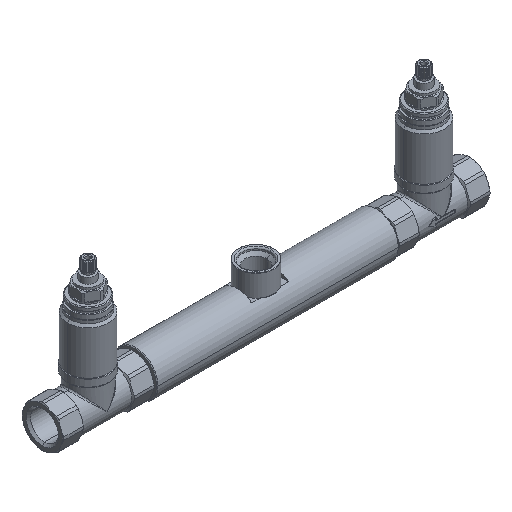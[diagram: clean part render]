
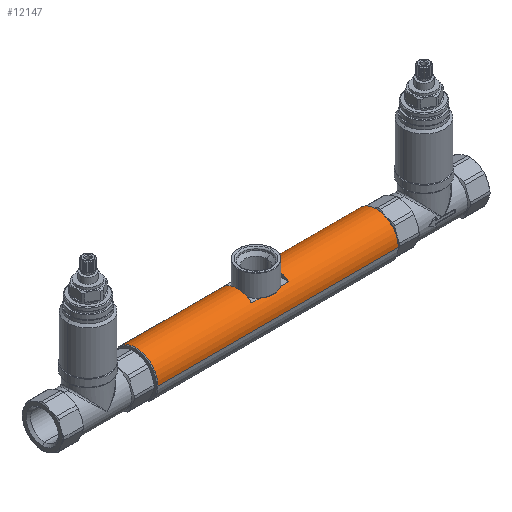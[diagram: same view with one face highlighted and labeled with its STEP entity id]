
A CAD part, isometric view. The second image highlights one B-rep face of the part: STEP entity #12147.
In plain terms, the highlighted cylindrical face has radius 15 mm (diameter 30 mm), a partial arc.
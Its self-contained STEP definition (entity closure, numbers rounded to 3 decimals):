
#29=CARTESIAN_POINT('',(-81.5,0.,0.));
#30=DIRECTION('',(-1.,0.,0.));
#31=DIRECTION('',(0.,-1.,0.));
#32=AXIS2_PLACEMENT_3D('',#29,#30,#31);
#34=DIRECTION('',(-1.,0.,0.));
#35=VECTOR('',#34,163.);
#36=CARTESIAN_POINT('',(81.5,15.,0.));
#37=LINE('',#36,#35);
#38=CARTESIAN_POINT('',(81.5,0.,0.));
#39=DIRECTION('',(-1.,0.,0.));
#40=DIRECTION('',(0.,-1.,0.));
#41=AXIS2_PLACEMENT_3D('',#38,#39,#40);
#43=DIRECTION('',(-1.,0.,0.));
#44=VECTOR('',#43,163.);
#45=CARTESIAN_POINT('',(81.5,-15.,0.));
#46=LINE('',#45,#44);
#47=DIRECTION('',(1.,0.,0.));
#48=VECTOR('',#47,5.682);
#49=CARTESIAN_POINT('',(-12.5,9.631,11.5));
#50=LINE('',#49,#48);
#51=CARTESIAN_POINT('',(-12.5,0.,0.));
#52=DIRECTION('',(1.,0.,0.));
#53=DIRECTION('',(0.,0.642,0.767));
#54=AXIS2_PLACEMENT_3D('',#51,#52,#53);
#56=DIRECTION('',(1.,0.,0.));
#57=VECTOR('',#56,5.682);
#58=CARTESIAN_POINT('',(-12.5,-9.631,11.5));
#59=LINE('',#58,#57);
#60=DIRECTION('',(1.,0.,0.));
#61=VECTOR('',#60,13.637);
#62=CARTESIAN_POINT('',(-6.818,-9.631,11.5));
#63=LINE('',#62,#61);
#64=DIRECTION('',(1.,0.,0.));
#65=VECTOR('',#64,5.682);
#66=CARTESIAN_POINT('',(6.818,-9.631,11.5));
#67=LINE('',#66,#65);
#68=CARTESIAN_POINT('',(12.5,0.,0.));
#69=DIRECTION('',(1.,0.,0.));
#70=DIRECTION('',(0.,0.642,0.767));
#71=AXIS2_PLACEMENT_3D('',#68,#69,#70);
#73=DIRECTION('',(1.,0.,0.));
#74=VECTOR('',#73,5.682);
#75=CARTESIAN_POINT('',(6.818,9.631,11.5));
#76=LINE('',#75,#74);
#77=DIRECTION('',(1.,0.,0.));
#78=VECTOR('',#77,13.637);
#79=CARTESIAN_POINT('',(-6.818,9.631,11.5));
#80=LINE('',#79,#78);
#10115=CARTESIAN_POINT('',(12.5,9.631,11.5));
#10116=CARTESIAN_POINT('',(12.5,-9.631,11.5));
#10117=VERTEX_POINT('',#10115);
#10118=VERTEX_POINT('',#10116);
#10119=CARTESIAN_POINT('',(-12.5,9.631,11.5));
#10120=CARTESIAN_POINT('',(-12.5,-9.631,11.5));
#10121=VERTEX_POINT('',#10119);
#10122=VERTEX_POINT('',#10120);
#10135=CARTESIAN_POINT('',(-81.5,15.,0.));
#10136=CARTESIAN_POINT('',(-81.5,-15.,0.));
#10137=VERTEX_POINT('',#10135);
#10138=VERTEX_POINT('',#10136);
#10139=CARTESIAN_POINT('',(81.5,-15.,0.));
#10140=CARTESIAN_POINT('',(81.5,15.,0.));
#10141=VERTEX_POINT('',#10139);
#10142=VERTEX_POINT('',#10140);
#12057=CARTESIAN_POINT('',(-6.818,9.631,11.5));
#12058=CARTESIAN_POINT('',(6.818,9.631,11.5));
#12059=VERTEX_POINT('',#12057);
#12060=VERTEX_POINT('',#12058);
#12061=CARTESIAN_POINT('',(-6.818,-9.631,11.5));
#12062=CARTESIAN_POINT('',(6.818,-9.631,11.5));
#12063=VERTEX_POINT('',#12061);
#12064=VERTEX_POINT('',#12062);
#12115=CARTESIAN_POINT('',(-101.75,0.,0.));
#12116=DIRECTION('',(1.,0.,0.));
#12117=DIRECTION('',(0.,1.,0.));
#12118=AXIS2_PLACEMENT_3D('',#12115,#12116,#12117);
#12119=CYLINDRICAL_SURFACE('',#12118,15.);
#12120=ORIENTED_EDGE('',*,*,#12109,.T.);
#12122=ORIENTED_EDGE('',*,*,#12121,.F.);
#12124=ORIENTED_EDGE('',*,*,#12123,.F.);
#12126=ORIENTED_EDGE('',*,*,#12125,.T.);
#12127=EDGE_LOOP('',(#12120,#12122,#12124,#12126));
#12128=FACE_OUTER_BOUND('',#12127,.F.);
#12130=ORIENTED_EDGE('',*,*,#12129,.F.);
#12132=ORIENTED_EDGE('',*,*,#12131,.T.);
#12134=ORIENTED_EDGE('',*,*,#12133,.T.);
#12136=ORIENTED_EDGE('',*,*,#12135,.T.);
#12138=ORIENTED_EDGE('',*,*,#12137,.T.);
#12140=ORIENTED_EDGE('',*,*,#12139,.F.);
#12142=ORIENTED_EDGE('',*,*,#12141,.F.);
#12144=ORIENTED_EDGE('',*,*,#12143,.F.);
#12145=EDGE_LOOP('',(#12130,#12132,#12134,#12136,#12138,#12140,#12142,#12144));
#12146=FACE_BOUND('',#12145,.F.);
#12147=ADVANCED_FACE('',(#12128,#12146),#12119,.T.);
#33=CIRCLE('',#32,15.);
#42=CIRCLE('',#41,15.);
#55=CIRCLE('',#54,15.);
#72=CIRCLE('',#71,15.);
#12109=EDGE_CURVE('',#10138,#10137,#33,.T.);
#12121=EDGE_CURVE('',#10142,#10137,#37,.T.);
#12123=EDGE_CURVE('',#10141,#10142,#42,.T.);
#12125=EDGE_CURVE('',#10141,#10138,#46,.T.);
#12129=EDGE_CURVE('',#10121,#12059,#50,.T.);
#12131=EDGE_CURVE('',#10121,#10122,#55,.T.);
#12133=EDGE_CURVE('',#10122,#12063,#59,.T.);
#12135=EDGE_CURVE('',#12063,#12064,#63,.T.);
#12137=EDGE_CURVE('',#12064,#10118,#67,.T.);
#12139=EDGE_CURVE('',#10117,#10118,#72,.T.);
#12141=EDGE_CURVE('',#12060,#10117,#76,.T.);
#12143=EDGE_CURVE('',#12059,#12060,#80,.T.);
